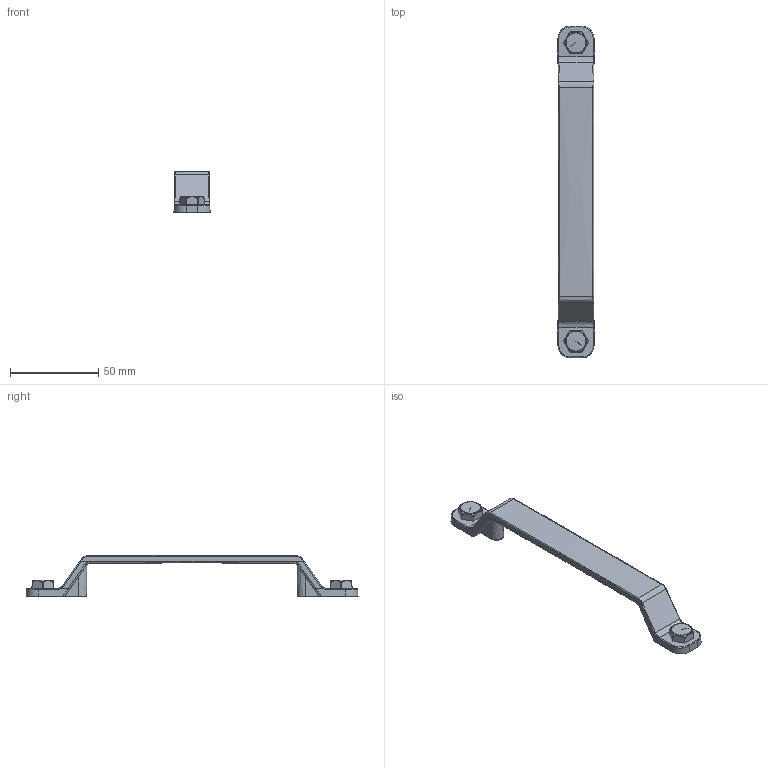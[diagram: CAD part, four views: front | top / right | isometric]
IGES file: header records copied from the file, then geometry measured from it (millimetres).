
Start section: C
Global section: file name: 8308-188 Final (2).igs; native system: By Siemens PLM Incorporated; preprocessor: XPlus GENERIC/IGES 16.0.42; author: Author; organization: Title; date: 20210505.094749; units: millimetre
Bounding box: 20.43 x 188 x 23.78 mm (x, y, z)
Surface area: 11918.5 mm2 (no closed solid volume)
Topology: 0 solids, 0 shells, 262 faces, 1376 edges, 1374 vertices
Faces by surface type: bspline 262
